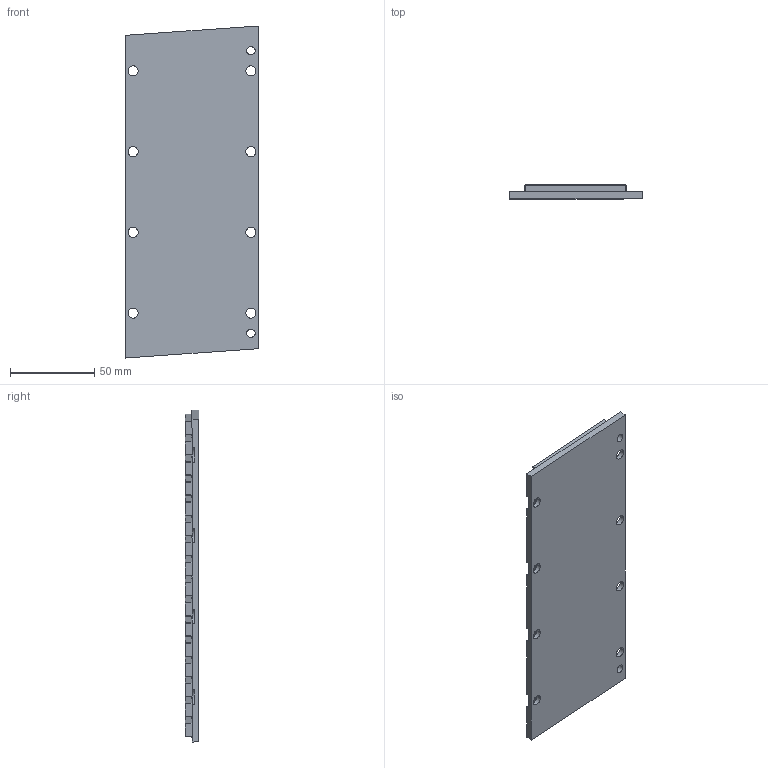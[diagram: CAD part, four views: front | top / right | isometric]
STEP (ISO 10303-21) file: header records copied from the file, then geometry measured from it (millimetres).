
FILE_DESCRIPTION (( 'STEP AP214' ), '1' );
FILE_NAME ('MPV76-192.STEP', '2024-07-24T02:01:44', ( '' ), ( '' ), 'SwSTEP 2.0', 'SolidWorks 2019', '' );
FILE_SCHEMA (( 'AUTOMOTIVE_DESIGN' ));
Length unit declared in the file: millimetre
Products named in the file (1): MPV76-192
Bounding box: 79 x 8 x 197.37 mm (x, y, z)
Volume: 89872 mm3; surface area: 41210.2 mm2
Topology: 1 solids, 1 shells, 354 faces, 868 edges, 472 vertices
Faces by surface type: cylinder 176, plane 114, bspline 64
Entity records: 10582 total; most frequent: CARTESIAN_POINT 2591, DIRECTION 1738, ORIENTED_EDGE 1608, EDGE_CURVE 804, AXIS2_PLACEMENT_3D 643, VERTEX_POINT 472, VECTOR 452, LINE 452
